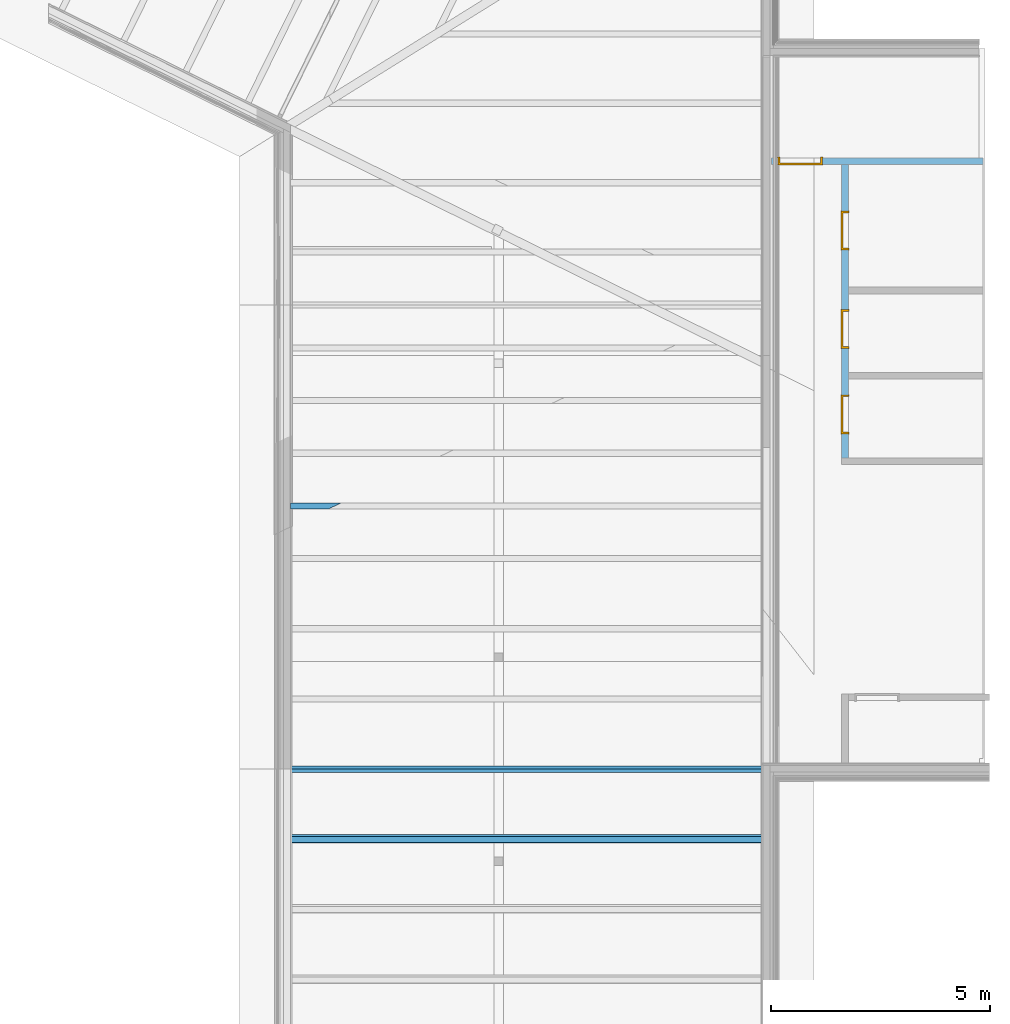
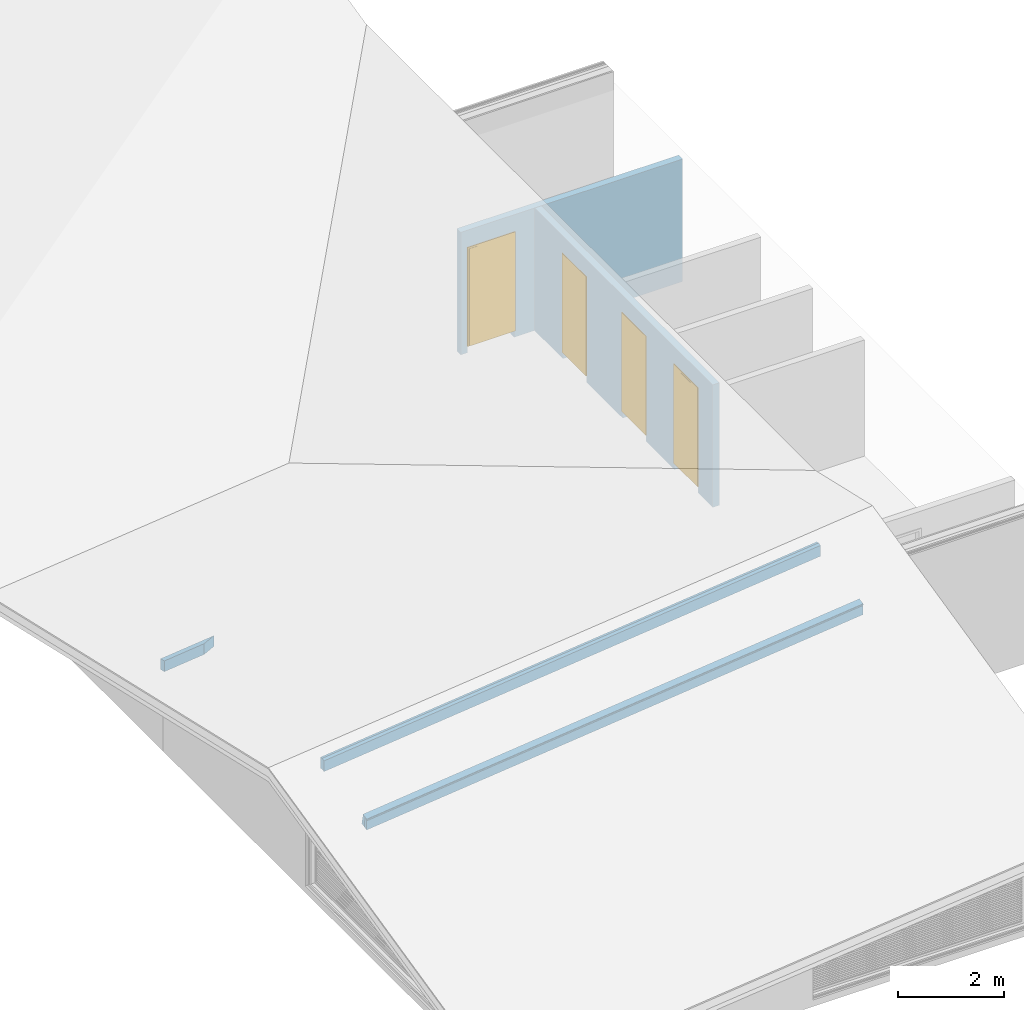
# One storey, part 11 of 14: 4 doors, 4 roofs, 4 openings, plus 2 elements that do not belong to this part.
"""IFC4 building model written with IfcOpenShell, lengths in metres."""

from ifc_helpers import new_model, entity, si_unit, converted_unit, derived_unit, frame, frame_2d, origin, origin_with_axes, place, context, subcontext, project, spatial, polyline, rectangle, outline, extrude, faceted_brep, source, transform, mapped, material, type_object, element, fill, save


model = new_model("IFC4")

# Units and contexts
model_context = context("Model", 3, precision=1e-05, world=origin())
body_context = subcontext(model_context, "Body", "Model", "MODEL_VIEW")
ifc_project = project(units=[si_unit("LENGTHUNIT", "METRE"), si_unit("AREAUNIT", "SQUARE_METRE"), si_unit("VOLUMEUNIT", "CUBIC_METRE"), si_unit("MASSUNIT", "GRAM", prefix="KILO"), converted_unit("PLANEANGLEUNIT", "DEGREE", entity("IfcPlaneAngleMeasure", 0.0174532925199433), si_unit("PLANEANGLEUNIT", "RADIAN"), dimensions=[0, 0, 0, 0, 0, 0, 0]), derived_unit("THERMALTRANSMITTANCEUNIT", [(si_unit("POWERUNIT", "WATT"), 1), (si_unit("THERMODYNAMICTEMPERATUREUNIT", "KELVIN"), -1), (si_unit("LENGTHUNIT", "METRE"), -2)]), derived_unit("VOLUMETRICFLOWRATEUNIT", [(si_unit("LENGTHUNIT", "METRE"), 3), (converted_unit("TIMEUNIT", "hour", entity("IfcTimeMeasure", 3600.0), si_unit("TIMEUNIT", "SECOND"), dimensions=[0, 0, 1, 0, 0, 0, 0]), -1), (si_unit("LENGTHUNIT", "METRE"), -1)])], contexts=[model_context])

# Site, building, storey
site_placement = place(None, origin())
site = spatial("IfcSite", under=ifc_project, at=site_placement, Name="Psychiatrie Neubau Wunstorf", CompositionType="ELEMENT")
building_placement = place(site_placement, origin())
building = spatial("IfcBuilding", under=site, at=building_placement, Name="Neubau H1 Sozialzentrum", CompositionType="ELEMENT")
storey_placement = place(building_placement, frame((0.0, 0.0, 4.45)))
storey = spatial("IfcBuildingStorey", under=building, at=storey_placement, Name="H1 Ebene +1", CompositionType="ELEMENT", Elevation=4.45)

# Wall, openings, doors
ifc_material_1 = material(Name="WI-LB")
wall_1_placement = place(storey_placement, frame((-3.33450147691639, 25.6442446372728, -0.15), z_axis=(0.0, 0.0, 1.0), x_axis=(-6.79713093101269e-17, -1.0, 0.0)))
wall_1 = element("IfcWall", 1, at=wall_1_placement, inside=storey, material=ifc_material_1, context=body_context, shape_type="SweptSolid", body=[
    extrude(rectangle(XDim=6.690283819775, YDim=0.15, at=frame_2d((3.3451419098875, 0.075), x_axis=(1.0, 0.0))), origin_with_axes(), (0.0, 0.0, 1.0), 2.81),
])
opening_1_placement = place(wall_1_placement, frame((6.14028381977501, 0.15, 0.0), z_axis=(0.0, -1.0, 0.0), x_axis=(0.0, 0.0, 1.0)))
opening_1 = element("IfcOpeningElement", 2, at=opening_1_placement, cuts=wall_1, Name="Türöffnung", ObjectType="Opening", context=body_context, shape_type="SweptSolid", body=[
    extrude(outline(polyline([(2.41, 0.885), (2.41, 0.0), (0.0, 0.0), (0.0, 0.885), (2.41, 0.885)])), origin_with_axes(), (0.0, 0.0, 1.0), 0.15),
])
opening_2_placement = place(wall_1_placement, frame((4.19514190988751, 0.15, 0.0), z_axis=(0.0, -1.0, 0.0), x_axis=(0.0, 0.0, 1.0)))
opening_2 = element("IfcOpeningElement", 3, at=opening_2_placement, cuts=wall_1, Name="Türöffnung", ObjectType="Opening", context=body_context, shape_type="SweptSolid", body=[
    extrude(outline(polyline([(2.41, 0.885), (2.41, 0.0), (0.0, 0.0), (0.0, 0.885), (2.41, 0.885)])), origin_with_axes(), (0.0, 0.0, 1.0), 0.15),
])
opening_3_placement = place(wall_1_placement, frame((1.95000000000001, 0.15, 0.0), z_axis=(0.0, -1.0, 0.0), x_axis=(0.0, 0.0, 1.0)))
opening_3 = element("IfcOpeningElement", 4, at=opening_3_placement, cuts=wall_1, Name="Türöffnung", ObjectType="Opening", context=body_context, shape_type="SweptSolid", body=[
    extrude(outline(polyline([(2.41, 0.885), (2.41, 0.0), (0.0, 0.0), (0.0, 0.885), (2.41, 0.885)])), origin_with_axes(), (0.0, 0.0, 1.0), 0.15),
])
ifc_material_2 = material(Name="TI-1F-UZ-ZK")
door_type_1 = type_object("IfcDoorType", Name="SMT", OperationType="SINGLE_SWING_RIGHT", ParameterTakesPrecedence=False, PredefinedType="DOOR")
shared_shape_1 = source(origin_with_axes(), body_context, "Body", "Brep", [
    faceted_brep([(0.884999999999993, -0.0150000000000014, 2.41), (0.884999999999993, -0.0150000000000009, 0.15), (0.844999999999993, -0.0150000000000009, 0.15), (0.844999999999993, -0.0150000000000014, 2.41), (0.884999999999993, 0.164999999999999, 0.15), (0.884999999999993, 0.164999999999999, 2.41), (0.844999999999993, 0.164999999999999, 2.41), (0.844999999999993, 0.164999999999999, 0.15)], [[[0, 1, 2, 3]], [[4, 5, 6, 7]], [[1, 0, 5, 4]], [[2, 1, 4, 7]], [[3, 2, 7, 6]], [[0, 3, 6, 5]]], orient=[[False], [False], [False], [False], [False], [False]]),
    faceted_brep([(0.884999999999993, -0.0150000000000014, 2.425), (0.899999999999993, -0.0150000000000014, 2.425), (0.899999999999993, -0.0150000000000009, 0.15), (0.884999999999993, -0.0150000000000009, 0.15), (0.884999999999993, 0.0, 0.15), (0.899999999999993, 0.0, 0.15), (0.899999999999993, 0.0, 2.425), (0.884999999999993, 0.0, 2.425)], [[[0, 1, 2, 3]], [[4, 5, 6, 7]], [[3, 4, 7, 0]], [[2, 5, 4, 3]], [[1, 6, 5, 2]], [[0, 7, 6, 1]]], orient=[[False], [False], [False], [False], [False], [False]]),
    faceted_brep([(0.884999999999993, 0.149999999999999, 2.425), (0.899999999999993, 0.149999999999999, 2.425), (0.899999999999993, 0.149999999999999, 0.15), (0.884999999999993, 0.149999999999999, 0.15), (0.884999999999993, 0.164999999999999, 0.15), (0.899999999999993, 0.164999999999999, 0.15), (0.899999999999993, 0.164999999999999, 2.425), (0.884999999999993, 0.164999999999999, 2.425)], [[[0, 1, 2, 3]], [[4, 5, 6, 7]], [[3, 4, 7, 0]], [[2, 5, 4, 3]], [[1, 6, 5, 2]], [[0, 7, 6, 1]]], orient=[[False], [False], [False], [False], [False], [False]]),
    faceted_brep([(0.0399999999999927, -0.0150000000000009, 2.41), (0.0399999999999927, -0.0150000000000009, 0.15), (0.0, -0.0150000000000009, 0.15), (0.0, -0.0150000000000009, 2.41), (0.0399999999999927, 0.164999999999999, 0.15), (0.0399999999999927, 0.164999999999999, 2.41), (0.0, 0.164999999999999, 2.41), (0.0, 0.164999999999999, 0.15)], [[[0, 1, 2, 3]], [[4, 5, 6, 7]], [[1, 0, 5, 4]], [[2, 1, 4, 7]], [[3, 2, 7, 6]], [[0, 3, 6, 5]]], orient=[[False], [False], [False], [False], [False], [False]]),
    faceted_brep([(0.0, -0.0150000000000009, 2.425), (0.0, -0.0150000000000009, 0.15), (-0.0150000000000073, -0.0150000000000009, 0.15), (-0.0150000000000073, -0.0150000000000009, 2.425), (0.0, 0.0, 0.15), (0.0, 0.0, 2.425), (-0.0150000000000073, 0.0, 2.425), (-0.0150000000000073, 0.0, 0.15)], [[[0, 1, 2, 3]], [[4, 5, 6, 7]], [[1, 0, 5, 4]], [[2, 1, 4, 7]], [[3, 2, 7, 6]], [[0, 3, 6, 5]]], orient=[[False], [False], [False], [False], [False], [False]]),
    faceted_brep([(0.0, 0.149999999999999, 2.425), (0.0, 0.149999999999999, 0.15), (-0.0150000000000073, 0.149999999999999, 0.15), (-0.0150000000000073, 0.149999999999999, 2.425), (0.0, 0.164999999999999, 0.15), (0.0, 0.164999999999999, 2.425), (-0.0150000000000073, 0.164999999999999, 2.425), (-0.0150000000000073, 0.164999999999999, 0.15)], [[[0, 1, 2, 3]], [[4, 5, 6, 7]], [[1, 0, 5, 4]], [[2, 1, 4, 7]], [[3, 2, 7, 6]], [[0, 3, 6, 5]]], orient=[[False], [False], [False], [False], [False], [False]]),
    faceted_brep([(0.844999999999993, -0.0150000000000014, 2.41), (0.844999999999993, -0.0150000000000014, 2.37), (0.0399999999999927, -0.0150000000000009, 2.37), (0.0399999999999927, -0.0150000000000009, 2.41), (0.844999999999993, 0.164999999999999, 2.37), (0.844999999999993, 0.164999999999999, 2.41), (0.0399999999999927, 0.164999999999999, 2.41), (0.0399999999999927, 0.164999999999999, 2.37)], [[[0, 1, 2, 3]], [[4, 5, 6, 7]], [[1, 0, 5, 4]], [[2, 1, 4, 7]], [[3, 2, 7, 6]], [[0, 3, 6, 5]]], orient=[[False], [False], [False], [False], [False], [False]]),
    faceted_brep([(0.884999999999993, -0.0150000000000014, 2.425), (0.884999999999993, -0.0150000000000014, 2.41), (0.0, -0.0150000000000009, 2.41), (0.0, -0.0150000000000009, 2.425), (0.884999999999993, 0.0, 2.41), (0.884999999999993, 0.0, 2.425), (0.0, 0.0, 2.425), (0.0, 0.0, 2.41)], [[[0, 1, 2, 3]], [[4, 5, 6, 7]], [[1, 0, 5, 4]], [[2, 1, 4, 7]], [[3, 2, 7, 6]], [[0, 3, 6, 5]]], orient=[[False], [False], [False], [False], [False], [False]]),
    faceted_brep([(0.884999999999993, 0.149999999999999, 2.425), (0.884999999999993, 0.149999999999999, 2.41), (0.0, 0.149999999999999, 2.41), (0.0, 0.149999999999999, 2.425), (0.884999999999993, 0.164999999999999, 2.41), (0.884999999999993, 0.164999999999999, 2.425), (0.0, 0.164999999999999, 2.425), (0.0, 0.164999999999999, 2.41)], [[[0, 1, 2, 3]], [[4, 5, 6, 7]], [[1, 0, 5, 4]], [[2, 1, 4, 7]], [[3, 2, 7, 6]], [[0, 3, 6, 5]]], orient=[[False], [False], [False], [False], [False], [False]]),
    faceted_brep([(0.859999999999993, 0.115999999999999, 2.385), (0.859999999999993, 0.115999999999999, 0.15), (0.0249999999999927, 0.115999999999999, 0.15), (0.0249999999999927, 0.115999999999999, 2.385), (0.859999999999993, 0.165999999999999, 0.15), (0.859999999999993, 0.165999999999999, 2.385), (0.0249999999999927, 0.165999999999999, 2.385), (0.0249999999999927, 0.165999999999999, 0.15)], [[[0, 1, 2, 3]], [[4, 5, 6, 7]], [[1, 0, 5, 4]], [[2, 1, 4, 7]], [[3, 2, 7, 6]], [[0, 3, 6, 5]]], orient=[[False], [False], [False], [False], [False], [False]]),
])
door_1_placement = place(opening_1_placement, frame((0.0, 0.0, 0.0), z_axis=(1.0, 0.0, 0.0), x_axis=(0.0, 1.0, 6.79713093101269e-17)))
door_1 = element("IfcDoor", 5, at=door_1_placement, inside=storey, type_object=door_type_1, material=ifc_material_2, Name="SMT", OverallHeight=2.41, OverallWidth=0.885, context=body_context, shape_type="MappedRepresentation", body=[
    mapped(shared_shape_1, transform((0.0, 0.0, 0.0), x_axis=(1.0, 0.0, 0.0), y_axis=(0.0, 1.0, 0.0), z_axis=(0.0, 0.0, 1.0), scale=1.0)),
])
fill(opening_1, door_1)
ifc_material_3 = material(Name="TI-1F-UZ-ZK")
door_type_2 = type_object("IfcDoorType", Name="SMT", OperationType="SINGLE_SWING_RIGHT", ParameterTakesPrecedence=False, PredefinedType="DOOR")
shared_shape_2 = source(origin_with_axes(), body_context, "Body", "Brep", [
    faceted_brep([(0.884999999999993, -0.0150000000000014, 2.41), (0.884999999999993, -0.0150000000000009, 0.15), (0.844999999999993, -0.0150000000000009, 0.15), (0.844999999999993, -0.0150000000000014, 2.41), (0.884999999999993, 0.164999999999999, 0.15), (0.884999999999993, 0.164999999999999, 2.41), (0.844999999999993, 0.164999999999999, 2.41), (0.844999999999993, 0.164999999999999, 0.15)], [[[0, 1, 2, 3]], [[4, 5, 6, 7]], [[1, 0, 5, 4]], [[2, 1, 4, 7]], [[3, 2, 7, 6]], [[0, 3, 6, 5]]], orient=[[False], [False], [False], [False], [False], [False]]),
    faceted_brep([(0.884999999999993, -0.0150000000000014, 2.425), (0.899999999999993, -0.0150000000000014, 2.425), (0.899999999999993, -0.0150000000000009, 0.15), (0.884999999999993, -0.0150000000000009, 0.15), (0.884999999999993, 0.0, 0.15), (0.899999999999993, 0.0, 0.15), (0.899999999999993, 0.0, 2.425), (0.884999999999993, 0.0, 2.425)], [[[0, 1, 2, 3]], [[4, 5, 6, 7]], [[3, 4, 7, 0]], [[2, 5, 4, 3]], [[1, 6, 5, 2]], [[0, 7, 6, 1]]], orient=[[False], [False], [False], [False], [False], [False]]),
    faceted_brep([(0.884999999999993, 0.149999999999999, 2.425), (0.899999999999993, 0.149999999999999, 2.425), (0.899999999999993, 0.149999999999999, 0.15), (0.884999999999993, 0.149999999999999, 0.15), (0.884999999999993, 0.164999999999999, 0.15), (0.899999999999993, 0.164999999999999, 0.15), (0.899999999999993, 0.164999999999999, 2.425), (0.884999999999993, 0.164999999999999, 2.425)], [[[0, 1, 2, 3]], [[4, 5, 6, 7]], [[3, 4, 7, 0]], [[2, 5, 4, 3]], [[1, 6, 5, 2]], [[0, 7, 6, 1]]], orient=[[False], [False], [False], [False], [False], [False]]),
    faceted_brep([(0.0399999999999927, -0.0150000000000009, 2.41), (0.0399999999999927, -0.0150000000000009, 0.15), (0.0, -0.0150000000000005, 0.15), (0.0, -0.0150000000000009, 2.41), (0.0399999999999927, 0.164999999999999, 0.15), (0.0399999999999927, 0.164999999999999, 2.41), (0.0, 0.164999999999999, 2.41), (0.0, 0.164999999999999, 0.15)], [[[0, 1, 2, 3]], [[4, 5, 6, 7]], [[1, 0, 5, 4]], [[2, 1, 4, 7]], [[3, 2, 7, 6]], [[0, 3, 6, 5]]], orient=[[False], [False], [False], [False], [False], [False]]),
    faceted_brep([(0.0, -0.0150000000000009, 2.425), (0.0, -0.0150000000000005, 0.15), (-0.0150000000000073, -0.0150000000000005, 0.15), (-0.0150000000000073, -0.0150000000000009, 2.425), (0.0, 0.0, 0.15), (0.0, 0.0, 2.425), (-0.0150000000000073, 0.0, 2.425), (-0.0150000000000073, 0.0, 0.15)], [[[0, 1, 2, 3]], [[4, 5, 6, 7]], [[1, 0, 5, 4]], [[2, 1, 4, 7]], [[3, 2, 7, 6]], [[0, 3, 6, 5]]], orient=[[False], [False], [False], [False], [False], [False]]),
    faceted_brep([(0.0, 0.149999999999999, 2.425), (0.0, 0.149999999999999, 0.15), (-0.0150000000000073, 0.149999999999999, 0.15), (-0.0150000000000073, 0.149999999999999, 2.425), (0.0, 0.164999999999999, 0.15), (0.0, 0.164999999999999, 2.425), (-0.0150000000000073, 0.164999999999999, 2.425), (-0.0150000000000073, 0.164999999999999, 0.15)], [[[0, 1, 2, 3]], [[4, 5, 6, 7]], [[1, 0, 5, 4]], [[2, 1, 4, 7]], [[3, 2, 7, 6]], [[0, 3, 6, 5]]], orient=[[False], [False], [False], [False], [False], [False]]),
    faceted_brep([(0.844999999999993, -0.0150000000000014, 2.41), (0.844999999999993, -0.0150000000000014, 2.37), (0.0399999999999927, -0.0150000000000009, 2.37), (0.0399999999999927, -0.0150000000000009, 2.41), (0.844999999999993, 0.164999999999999, 2.37), (0.844999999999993, 0.164999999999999, 2.41), (0.0399999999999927, 0.164999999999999, 2.41), (0.0399999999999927, 0.164999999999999, 2.37)], [[[0, 1, 2, 3]], [[4, 5, 6, 7]], [[1, 0, 5, 4]], [[2, 1, 4, 7]], [[3, 2, 7, 6]], [[0, 3, 6, 5]]], orient=[[False], [False], [False], [False], [False], [False]]),
    faceted_brep([(0.884999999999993, -0.0150000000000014, 2.425), (0.884999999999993, -0.0150000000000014, 2.41), (0.0, -0.0150000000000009, 2.41), (0.0, -0.0150000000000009, 2.425), (0.884999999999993, 0.0, 2.41), (0.884999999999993, 0.0, 2.425), (0.0, 0.0, 2.425), (0.0, 0.0, 2.41)], [[[0, 1, 2, 3]], [[4, 5, 6, 7]], [[1, 0, 5, 4]], [[2, 1, 4, 7]], [[3, 2, 7, 6]], [[0, 3, 6, 5]]], orient=[[False], [False], [False], [False], [False], [False]]),
    faceted_brep([(0.884999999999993, 0.149999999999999, 2.425), (0.884999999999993, 0.149999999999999, 2.41), (0.0, 0.149999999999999, 2.41), (0.0, 0.149999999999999, 2.425), (0.884999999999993, 0.164999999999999, 2.41), (0.884999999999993, 0.164999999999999, 2.425), (0.0, 0.164999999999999, 2.425), (0.0, 0.164999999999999, 2.41)], [[[0, 1, 2, 3]], [[4, 5, 6, 7]], [[1, 0, 5, 4]], [[2, 1, 4, 7]], [[3, 2, 7, 6]], [[0, 3, 6, 5]]], orient=[[False], [False], [False], [False], [False], [False]]),
    faceted_brep([(0.859999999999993, 0.115999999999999, 2.385), (0.859999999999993, 0.115999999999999, 0.15), (0.0249999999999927, 0.115999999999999, 0.15), (0.0249999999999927, 0.115999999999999, 2.385), (0.859999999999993, 0.165999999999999, 0.15), (0.859999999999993, 0.165999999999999, 2.385), (0.0249999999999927, 0.165999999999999, 2.385), (0.0249999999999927, 0.165999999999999, 0.15)], [[[0, 1, 2, 3]], [[4, 5, 6, 7]], [[1, 0, 5, 4]], [[2, 1, 4, 7]], [[3, 2, 7, 6]], [[0, 3, 6, 5]]], orient=[[False], [False], [False], [False], [False], [False]]),
])
door_2_placement = place(opening_2_placement, frame((0.0, 0.0, 0.0), z_axis=(1.0, 0.0, 0.0), x_axis=(0.0, 1.0, 6.79713093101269e-17)))
door_2 = element("IfcDoor", 6, at=door_2_placement, inside=storey, type_object=door_type_2, material=ifc_material_3, Name="SMT", OverallHeight=2.41, OverallWidth=0.885, context=body_context, shape_type="MappedRepresentation", body=[
    mapped(shared_shape_2, transform((0.0, 0.0, 0.0), x_axis=(1.0, 0.0, 0.0), y_axis=(0.0, 1.0, 0.0), z_axis=(0.0, 0.0, 1.0), scale=1.0)),
])
fill(opening_2, door_2)
ifc_material_4 = material(Name="TI-1F-UZ-ZK")
door_type_3 = type_object("IfcDoorType", Name="SMT", OperationType="SINGLE_SWING_RIGHT", ParameterTakesPrecedence=False, PredefinedType="DOOR")
shared_shape_3 = source(origin_with_axes(), body_context, "Body", "Brep", [
    faceted_brep([(0.884999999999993, -0.0150000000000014, 2.41), (0.884999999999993, -0.0150000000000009, 0.15), (0.844999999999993, -0.0150000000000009, 0.15), (0.844999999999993, -0.0150000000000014, 2.41), (0.884999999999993, 0.164999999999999, 0.15), (0.884999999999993, 0.164999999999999, 2.41), (0.844999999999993, 0.164999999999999, 2.41), (0.844999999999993, 0.164999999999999, 0.15)], [[[0, 1, 2, 3]], [[4, 5, 6, 7]], [[1, 0, 5, 4]], [[2, 1, 4, 7]], [[3, 2, 7, 6]], [[0, 3, 6, 5]]], orient=[[False], [False], [False], [False], [False], [False]]),
    faceted_brep([(0.884999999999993, -0.0150000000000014, 2.425), (0.899999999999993, -0.0150000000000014, 2.425), (0.899999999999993, -0.0150000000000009, 0.15), (0.884999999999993, -0.0150000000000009, 0.15), (0.884999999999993, 0.0, 0.15), (0.899999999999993, 0.0, 0.15), (0.899999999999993, 0.0, 2.425), (0.884999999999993, 0.0, 2.425)], [[[0, 1, 2, 3]], [[4, 5, 6, 7]], [[3, 4, 7, 0]], [[2, 5, 4, 3]], [[1, 6, 5, 2]], [[0, 7, 6, 1]]], orient=[[False], [False], [False], [False], [False], [False]]),
    faceted_brep([(0.884999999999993, 0.149999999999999, 2.425), (0.899999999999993, 0.149999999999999, 2.425), (0.899999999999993, 0.149999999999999, 0.15), (0.884999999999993, 0.149999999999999, 0.15), (0.884999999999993, 0.164999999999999, 0.15), (0.899999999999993, 0.164999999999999, 0.15), (0.899999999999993, 0.164999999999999, 2.425), (0.884999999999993, 0.164999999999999, 2.425)], [[[0, 1, 2, 3]], [[4, 5, 6, 7]], [[3, 4, 7, 0]], [[2, 5, 4, 3]], [[1, 6, 5, 2]], [[0, 7, 6, 1]]], orient=[[False], [False], [False], [False], [False], [False]]),
    faceted_brep([(0.0399999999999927, -0.0150000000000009, 2.41), (0.0399999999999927, -0.0150000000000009, 0.15), (0.0, -0.0150000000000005, 0.15), (0.0, -0.0150000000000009, 2.41), (0.0399999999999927, 0.164999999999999, 0.15), (0.0399999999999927, 0.164999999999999, 2.41), (0.0, 0.164999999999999, 2.41), (0.0, 0.164999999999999, 0.15)], [[[0, 1, 2, 3]], [[4, 5, 6, 7]], [[1, 0, 5, 4]], [[2, 1, 4, 7]], [[3, 2, 7, 6]], [[0, 3, 6, 5]]], orient=[[False], [False], [False], [False], [False], [False]]),
    faceted_brep([(0.0, -0.0150000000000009, 2.425), (0.0, -0.0150000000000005, 0.15), (-0.0150000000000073, -0.0150000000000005, 0.15), (-0.0150000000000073, -0.0150000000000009, 2.425), (0.0, 0.0, 0.15), (0.0, 0.0, 2.425), (-0.0150000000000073, 0.0, 2.425), (-0.0150000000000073, 0.0, 0.15)], [[[0, 1, 2, 3]], [[4, 5, 6, 7]], [[1, 0, 5, 4]], [[2, 1, 4, 7]], [[3, 2, 7, 6]], [[0, 3, 6, 5]]], orient=[[False], [False], [False], [False], [False], [False]]),
    faceted_brep([(0.0, 0.149999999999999, 2.425), (0.0, 0.149999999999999, 0.15), (-0.0150000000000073, 0.149999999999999, 0.15), (-0.0150000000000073, 0.149999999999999, 2.425), (0.0, 0.164999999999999, 0.15), (0.0, 0.164999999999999, 2.425), (-0.0150000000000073, 0.164999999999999, 2.425), (-0.0150000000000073, 0.164999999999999, 0.15)], [[[0, 1, 2, 3]], [[4, 5, 6, 7]], [[1, 0, 5, 4]], [[2, 1, 4, 7]], [[3, 2, 7, 6]], [[0, 3, 6, 5]]], orient=[[False], [False], [False], [False], [False], [False]]),
    faceted_brep([(0.844999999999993, -0.0150000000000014, 2.41), (0.844999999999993, -0.0150000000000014, 2.37), (0.0399999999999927, -0.0150000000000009, 2.37), (0.0399999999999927, -0.0150000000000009, 2.41), (0.844999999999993, 0.164999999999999, 2.37), (0.844999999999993, 0.164999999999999, 2.41), (0.0399999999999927, 0.164999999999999, 2.41), (0.0399999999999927, 0.164999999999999, 2.37)], [[[0, 1, 2, 3]], [[4, 5, 6, 7]], [[1, 0, 5, 4]], [[2, 1, 4, 7]], [[3, 2, 7, 6]], [[0, 3, 6, 5]]], orient=[[False], [False], [False], [False], [False], [False]]),
    faceted_brep([(0.884999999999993, -0.0150000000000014, 2.425), (0.884999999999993, -0.0150000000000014, 2.41), (0.0, -0.0150000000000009, 2.41), (0.0, -0.0150000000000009, 2.425), (0.884999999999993, 0.0, 2.41), (0.884999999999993, 0.0, 2.425), (0.0, 0.0, 2.425), (0.0, 0.0, 2.41)], [[[0, 1, 2, 3]], [[4, 5, 6, 7]], [[1, 0, 5, 4]], [[2, 1, 4, 7]], [[3, 2, 7, 6]], [[0, 3, 6, 5]]], orient=[[False], [False], [False], [False], [False], [False]]),
    faceted_brep([(0.884999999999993, 0.149999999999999, 2.425), (0.884999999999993, 0.149999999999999, 2.41), (0.0, 0.149999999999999, 2.41), (0.0, 0.149999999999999, 2.425), (0.884999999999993, 0.164999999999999, 2.41), (0.884999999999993, 0.164999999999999, 2.425), (0.0, 0.164999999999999, 2.425), (0.0, 0.164999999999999, 2.41)], [[[0, 1, 2, 3]], [[4, 5, 6, 7]], [[1, 0, 5, 4]], [[2, 1, 4, 7]], [[3, 2, 7, 6]], [[0, 3, 6, 5]]], orient=[[False], [False], [False], [False], [False], [False]]),
    faceted_brep([(0.859999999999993, 0.115999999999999, 2.385), (0.859999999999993, 0.115999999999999, 0.15), (0.0249999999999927, 0.115999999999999, 0.15), (0.0249999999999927, 0.115999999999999, 2.385), (0.859999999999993, 0.165999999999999, 0.15), (0.859999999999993, 0.165999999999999, 2.385), (0.0249999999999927, 0.165999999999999, 2.385), (0.0249999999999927, 0.165999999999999, 0.15)], [[[0, 1, 2, 3]], [[4, 5, 6, 7]], [[1, 0, 5, 4]], [[2, 1, 4, 7]], [[3, 2, 7, 6]], [[0, 3, 6, 5]]], orient=[[False], [False], [False], [False], [False], [False]]),
])
door_3_placement = place(opening_3_placement, frame((0.0, 0.0, 0.0), z_axis=(1.0, 0.0, 0.0), x_axis=(0.0, 1.0, 6.79713093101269e-17)))
door_3 = element("IfcDoor", 7, at=door_3_placement, inside=storey, type_object=door_type_3, material=ifc_material_4, Name="SMT", OverallHeight=2.41, OverallWidth=0.885, context=body_context, shape_type="MappedRepresentation", body=[
    mapped(shared_shape_3, transform((0.0, 0.0, 0.0), x_axis=(1.0, 0.0, 0.0), y_axis=(0.0, 1.0, 0.0), z_axis=(0.0, 0.0, 1.0), scale=1.0)),
])
fill(opening_3, door_3)

# Wall, opening, door
ifc_material_5 = material(Name="WI-LB")
wall_2_placement = place(storey_placement, frame((-4.93452529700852, 25.6442446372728, -0.15)))
wall_2 = element("IfcWall", 8, at=wall_2_placement, inside=storey, material=ifc_material_5, context=body_context, shape_type="SweptSolid", body=[
    extrude(rectangle(XDim=4.81352529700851, YDim=0.15, at=frame_2d((2.40676264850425, 0.075), x_axis=(1.0, 0.0))), origin_with_axes(), (0.0, 0.0, 1.0), 2.81),
])
opening_4_placement = place(wall_2_placement, frame((1.16, 0.15, 0.0), z_axis=(0.0, -1.0, 0.0), x_axis=(0.0, 0.0, 1.0)))
opening_4 = element("IfcOpeningElement", 9, at=opening_4_placement, cuts=wall_2, Name="Türöffnung", ObjectType="Opening", context=body_context, shape_type="SweptSolid", body=[
    extrude(outline(polyline([(2.41, 1.01), (2.41, 0.0), (0.0, 0.0), (0.0, 1.01), (2.41, 1.01)])), origin_with_axes(), (0.0, 0.0, 1.0), 0.15),
])
ifc_material_6 = material(Name="TI-1F-UZ-ZK")
door_type_4 = type_object("IfcDoorType", Name="SMT", OperationType="SINGLE_SWING_RIGHT", ParameterTakesPrecedence=False, PredefinedType="DOOR")
shared_shape_4 = source(origin_with_axes(), body_context, "Body", "Brep", [
    faceted_brep([(1.01, -0.015, 2.41), (1.01, -0.015, 0.15), (0.97, -0.015, 0.15), (0.97, -0.015, 2.41), (1.01, 0.165, 0.15), (1.01, 0.165, 2.41), (0.97, 0.165, 2.41), (0.97, 0.165, 0.15)], [[[0, 1, 2, 3]], [[4, 5, 6, 7]], [[1, 0, 5, 4]], [[2, 1, 4, 7]], [[3, 2, 7, 6]], [[0, 3, 6, 5]]], orient=[[False], [False], [False], [False], [False], [False]]),
    faceted_brep([(1.01, -0.015, 2.425), (1.025, -0.015, 2.425), (1.025, -0.015, 0.15), (1.01, -0.015, 0.15), (1.01, 0.0, 0.15), (1.025, 0.0, 0.15), (1.025, 0.0, 2.425), (1.01, 0.0, 2.425)], [[[0, 1, 2, 3]], [[4, 5, 6, 7]], [[3, 4, 7, 0]], [[2, 5, 4, 3]], [[1, 6, 5, 2]], [[0, 7, 6, 1]]], orient=[[False], [False], [False], [False], [False], [False]]),
    faceted_brep([(1.01, 0.15, 2.425), (1.025, 0.15, 2.425), (1.025, 0.15, 0.15), (1.01, 0.15, 0.15), (1.01, 0.165, 0.15), (1.025, 0.165, 0.15), (1.025, 0.165, 2.425), (1.01, 0.165, 2.425)], [[[0, 1, 2, 3]], [[4, 5, 6, 7]], [[3, 4, 7, 0]], [[2, 5, 4, 3]], [[1, 6, 5, 2]], [[0, 7, 6, 1]]], orient=[[False], [False], [False], [False], [False], [False]]),
    faceted_brep([(0.04, -0.015, 2.41), (0.04, -0.015, 0.15), (0.0, -0.015, 0.15), (0.0, -0.015, 2.41), (0.04, 0.165, 0.15), (0.04, 0.165, 2.41), (0.0, 0.165, 2.41), (0.0, 0.165, 0.15)], [[[0, 1, 2, 3]], [[4, 5, 6, 7]], [[1, 0, 5, 4]], [[2, 1, 4, 7]], [[3, 2, 7, 6]], [[0, 3, 6, 5]]], orient=[[False], [False], [False], [False], [False], [False]]),
    faceted_brep([(0.0, -0.015, 2.425), (0.0, -0.015, 0.15), (-0.015, -0.015, 0.15), (-0.015, -0.015, 2.425), (0.0, 0.0, 0.15), (0.0, 0.0, 2.425), (-0.015, 0.0, 2.425), (-0.015, 0.0, 0.15)], [[[0, 1, 2, 3]], [[4, 5, 6, 7]], [[1, 0, 5, 4]], [[2, 1, 4, 7]], [[3, 2, 7, 6]], [[0, 3, 6, 5]]], orient=[[False], [False], [False], [False], [False], [False]]),
    faceted_brep([(0.0, 0.15, 2.425), (0.0, 0.15, 0.15), (-0.015, 0.15, 0.15), (-0.015, 0.15, 2.425), (0.0, 0.165, 0.15), (0.0, 0.165, 2.425), (-0.015, 0.165, 2.425), (-0.015, 0.165, 0.15)], [[[0, 1, 2, 3]], [[4, 5, 6, 7]], [[1, 0, 5, 4]], [[2, 1, 4, 7]], [[3, 2, 7, 6]], [[0, 3, 6, 5]]], orient=[[False], [False], [False], [False], [False], [False]]),
    faceted_brep([(0.97, -0.015, 2.41), (0.97, -0.015, 2.37), (0.04, -0.015, 2.37), (0.04, -0.015, 2.41), (0.97, 0.165, 2.37), (0.97, 0.165, 2.41), (0.04, 0.165, 2.41), (0.04, 0.165, 2.37)], [[[0, 1, 2, 3]], [[4, 5, 6, 7]], [[1, 0, 5, 4]], [[2, 1, 4, 7]], [[3, 2, 7, 6]], [[0, 3, 6, 5]]], orient=[[False], [False], [False], [False], [False], [False]]),
    faceted_brep([(1.01, -0.015, 2.425), (1.01, -0.015, 2.41), (0.0, -0.015, 2.41), (0.0, -0.015, 2.425), (1.01, 0.0, 2.41), (1.01, 0.0, 2.425), (0.0, 0.0, 2.425), (0.0, 0.0, 2.41)], [[[0, 1, 2, 3]], [[4, 5, 6, 7]], [[1, 0, 5, 4]], [[2, 1, 4, 7]], [[3, 2, 7, 6]], [[0, 3, 6, 5]]], orient=[[False], [False], [False], [False], [False], [False]]),
    faceted_brep([(1.01, 0.15, 2.425), (1.01, 0.15, 2.41), (0.0, 0.15, 2.41), (0.0, 0.15, 2.425), (1.01, 0.165, 2.41), (1.01, 0.165, 2.425), (0.0, 0.165, 2.425), (0.0, 0.165, 2.41)], [[[0, 1, 2, 3]], [[4, 5, 6, 7]], [[1, 0, 5, 4]], [[2, 1, 4, 7]], [[3, 2, 7, 6]], [[0, 3, 6, 5]]], orient=[[False], [False], [False], [False], [False], [False]]),
    faceted_brep([(0.985, 0.116, 2.385), (0.985, 0.116, 0.15), (0.025, 0.116, 0.15), (0.025, 0.116, 2.385), (0.985, 0.166, 0.15), (0.985, 0.166, 2.385), (0.025, 0.166, 2.385), (0.025, 0.166, 0.15)], [[[0, 1, 2, 3]], [[4, 5, 6, 7]], [[1, 0, 5, 4]], [[2, 1, 4, 7]], [[3, 2, 7, 6]], [[0, 3, 6, 5]]], orient=[[False], [False], [False], [False], [False], [False]]),
])
door_4_placement = place(opening_4_placement, frame((0.0, 0.0, 0.0), z_axis=(1.0, 0.0, 0.0), x_axis=(0.0, 1.0, 0.0)))
door_4 = element("IfcDoor", 10, at=door_4_placement, inside=storey, type_object=door_type_4, material=ifc_material_6, Name="SMT", OverallHeight=2.41, OverallWidth=1.01, context=body_context, shape_type="MappedRepresentation", body=[
    mapped(shared_shape_4, transform((0.0, 0.0, 0.0), x_axis=(1.0, 0.0, 0.0), y_axis=(0.0, 1.0, 0.0), z_axis=(0.0, 0.0, 1.0), scale=1.0)),
])
fill(opening_4, door_4)

# Roofs
ifc_material_7 = material(Name="Schwerlast-Deckenprofil")
roof_1_placement = place(storey_placement, frame((-15.8985267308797, 17.7903211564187, 1.15616506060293)))
element("IfcRoof", 11, at=roof_1_placement, inside=storey, material=ifc_material_7, PredefinedType="NOTDEFINED", context=body_context, shape_type="Brep", body=[
    faceted_brep([(0.0, 0.14, 0.0), (1.16212140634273, 0.14, 0.126317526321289), (1.16212140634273, 0.14, 0.373961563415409), (0.0, 0.14, 0.247644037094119), (0.865881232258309, 0.0, 0.126317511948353), (0.865881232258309, 0.0, 0.373961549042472), (0.0, 0.0, 0.0321999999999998), (0.0, 0.0, 0.279844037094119)], [[[0, 1, 2, 3]], [[1, 4, 5, 2]], [[4, 6, 7, 5]], [[6, 0, 3, 7]], [[7, 3, 2, 5]], [[0, 6, 4, 1]]], orient=[[False], [False], [False], [False], [False], [False]]),
])
ifc_material_8 = material(Name="Schwerlast-Deckenprofil")
roof_2_placement = place(storey_placement, frame((-15.8985267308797, 10.1903213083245, 2.168164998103)))
element("IfcRoof", 12, at=roof_2_placement, inside=storey, material=ifc_material_8, PredefinedType="NOTDEFINED", context=body_context, shape_type="Brep", body=[
    faceted_brep([(10.7680016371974, 0.0, 1.17043479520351), (0.0, 0.0, 0.0), (0.0, 0.0, 0.247644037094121), (10.7680016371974, 0.0, 1.41807883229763), (0.0, 0.14, 0.0322000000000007), (0.0, 0.14, 0.279844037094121), (10.7680016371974, 0.14, 1.20263479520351), (10.7680016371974, 0.14, 1.45027883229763)], [[[0, 1, 2, 3]], [[1, 4, 5, 2]], [[4, 6, 7, 5]], [[6, 0, 3, 7]], [[7, 3, 2, 5]], [[0, 6, 4, 1]]], orient=[[False], [False], [False], [False], [False], [False]]),
])
ifc_material_9 = material(Name="Schwerlast-Deckenprofil")
roof_3_placement = place(storey_placement, frame((-15.8985267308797, 11.7903211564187, 2.53616496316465)))
element("IfcRoof", 13, at=roof_3_placement, inside=storey, material=ifc_material_9, PredefinedType="NOTDEFINED", context=body_context, shape_type="Brep", body=[
    faceted_brep([(10.7680016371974, 0.0, 1.17043479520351), (0.0, 0.0, 0.0), (0.0, 0.0, 0.247644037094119), (10.7680016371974, 0.0, 1.41807883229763), (0.0, 0.0700002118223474, 0.263744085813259), (10.7680016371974, 0.0700002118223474, 1.43417888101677), (10.7680016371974, 0.0700002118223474, 1.18653484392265), (0.0, 0.0700002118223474, 0.0161000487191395), (0.0, 0.14, 9.74382792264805e-08), (0.0, 0.14, 0.247644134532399), (10.7680016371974, 0.14, 1.17043489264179), (10.7680016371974, 0.14, 1.41807892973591)], [[[0, 1, 2, 3]], [[3, 2, 4, 5]], [[1, 0, 6, 7]], [[8, 9, 4, 2, 1, 7]], [[8, 10, 11, 9]], [[10, 6, 0, 3, 5, 11]], [[11, 5, 4, 9]], [[6, 10, 8, 7]]], orient=[[False], [False], [False], [False], [False], [False], [False], [False]]),
])
roof_4_placement = place(storey_placement, frame((-15.9008652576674, 10.1820824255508, 2.17868643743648)))
element("IfcRoof", 14, at=roof_4_placement, inside=storey, PredefinedType="NOTDEFINED", context=body_context, shape_type="Brep", body=[
    faceted_brep([(0.00402457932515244, 0.0, 0.235410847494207), (10.7720262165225, 2.85883143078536e-08, 1.40584620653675), (10.7713737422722, 0.0534961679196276, 1.17043535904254), (0.00337210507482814, 0.0534961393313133, 0.0), (10.7680016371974, 0.189973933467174, 1.20145871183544), (0.0, 0.189973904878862, 0.0310233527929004), (10.7686541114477, 0.136477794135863, 1.43686955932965), (0.000652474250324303, 0.136477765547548, 0.266434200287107)], [[[0, 1, 2, 3]], [[3, 2, 4, 5]], [[6, 4, 2, 1]], [[7, 0, 3, 5]], [[5, 4, 6, 7]], [[7, 6, 1, 0]]], orient=[[False], [False], [False], [False], [False], [False]]),
])

save(model, "model.ifc")
